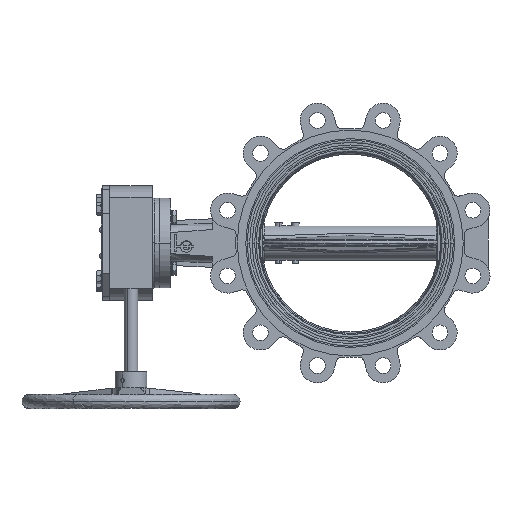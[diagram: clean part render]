
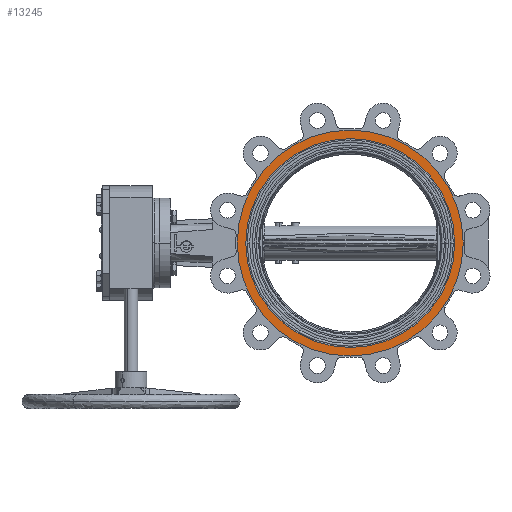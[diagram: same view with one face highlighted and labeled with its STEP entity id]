
A CAD part, left-side view. The second image highlights one B-rep face of the part: STEP entity #13245.
In plain terms, the highlighted planar face has unit normal (-1, 0, 0).
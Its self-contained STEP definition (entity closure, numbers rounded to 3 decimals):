
#7539 = DIRECTION ( 'NONE',  ( 1., 0., 0. ) ) ;
#11439 = DIRECTION ( 'NONE',  ( 0., 0., -1. ) ) ;
#12582 = AXIS2_PLACEMENT_3D ( 'NONE', #72312, #17840, #73676 ) ;
#13245 = ADVANCED_FACE ( 'NONE', ( #25576, #24676 ), #53487, .F. ) ;
#14781 = EDGE_LOOP ( 'NONE', ( #58138, #87400 ) ) ;
#17700 = CARTESIAN_POINT ( 'NONE',  ( -33., 0., 0. ) ) ;
#17840 = DIRECTION ( 'NONE',  ( 1., 0., 0. ) ) ;
#18115 = CARTESIAN_POINT ( 'NONE',  ( -33., 0., -158. ) ) ;
#18275 = CARTESIAN_POINT ( 'NONE',  ( -33., 0., 0. ) ) ;
#18850 = EDGE_CURVE ( 'NONE', #66952, #41208, #70173, .T. ) ;
#23325 = CIRCLE ( 'NONE', #75965, 146. ) ;
#24676 = FACE_OUTER_BOUND ( 'NONE', #49128, .T. ) ;
#25079 = CIRCLE ( 'NONE', #79180, 158. ) ;
#25576 = FACE_BOUND ( 'NONE', #14781, .T. ) ;
#26149 = ORIENTED_EDGE ( 'NONE', *, *, #65954, .F. ) ;
#28441 = CARTESIAN_POINT ( 'NONE',  ( -33., 0., 146. ) ) ;
#30656 = AXIS2_PLACEMENT_3D ( 'NONE', #69779, #7539, #42243 ) ;
#31820 = DIRECTION ( 'NONE',  ( 1., 0., 0. ) ) ;
#41208 = VERTEX_POINT ( 'NONE', #18115 ) ;
#42243 = DIRECTION ( 'NONE',  ( 0., 0., -1. ) ) ;
#42327 = VERTEX_POINT ( 'NONE', #28441 ) ;
#44066 = CARTESIAN_POINT ( 'NONE',  ( -33., 0., 158. ) ) ;
#44988 = VERTEX_POINT ( 'NONE', #65125 ) ;
#46144 = DIRECTION ( 'NONE',  ( 1., 0., 0. ) ) ;
#49128 = EDGE_LOOP ( 'NONE', ( #26149, #64764 ) ) ;
#49338 = AXIS2_PLACEMENT_3D ( 'NONE', #17700, #31820, #52920 ) ;
#51860 = DIRECTION ( 'NONE',  ( 1., 0., 0. ) ) ;
#52920 = DIRECTION ( 'NONE',  ( 0., 0., -1. ) ) ;
#53487 = PLANE ( 'NONE',  #12582 ) ;
#58138 = ORIENTED_EDGE ( 'NONE', *, *, #70762, .T. ) ;
#58289 = CARTESIAN_POINT ( 'NONE',  ( -33., 0., 0. ) ) ;
#64764 = ORIENTED_EDGE ( 'NONE', *, *, #18850, .F. ) ;
#65125 = CARTESIAN_POINT ( 'NONE',  ( -33., 0., -146. ) ) ;
#65954 = EDGE_CURVE ( 'NONE', #41208, #66952, #25079, .T. ) ;
#66952 = VERTEX_POINT ( 'NONE', #44066 ) ;
#66995 = DIRECTION ( 'NONE',  ( 0., 0., -1. ) ) ;
#69779 = CARTESIAN_POINT ( 'NONE',  ( -33., 0., 0. ) ) ;
#70173 = CIRCLE ( 'NONE', #30656, 158. ) ;
#70762 = EDGE_CURVE ( 'NONE', #44988, #42327, #23325, .T. ) ;
#72312 = CARTESIAN_POINT ( 'NONE',  ( -33., 0., 0. ) ) ;
#73676 = DIRECTION ( 'NONE',  ( 0., 0., -1. ) ) ;
#75965 = AXIS2_PLACEMENT_3D ( 'NONE', #58289, #51860, #66995 ) ;
#79180 = AXIS2_PLACEMENT_3D ( 'NONE', #18275, #46144, #11439 ) ;
#81592 = CIRCLE ( 'NONE', #49338, 146. ) ;
#87400 = ORIENTED_EDGE ( 'NONE', *, *, #89208, .T. ) ;
#89208 = EDGE_CURVE ( 'NONE', #42327, #44988, #81592, .T. ) ;
